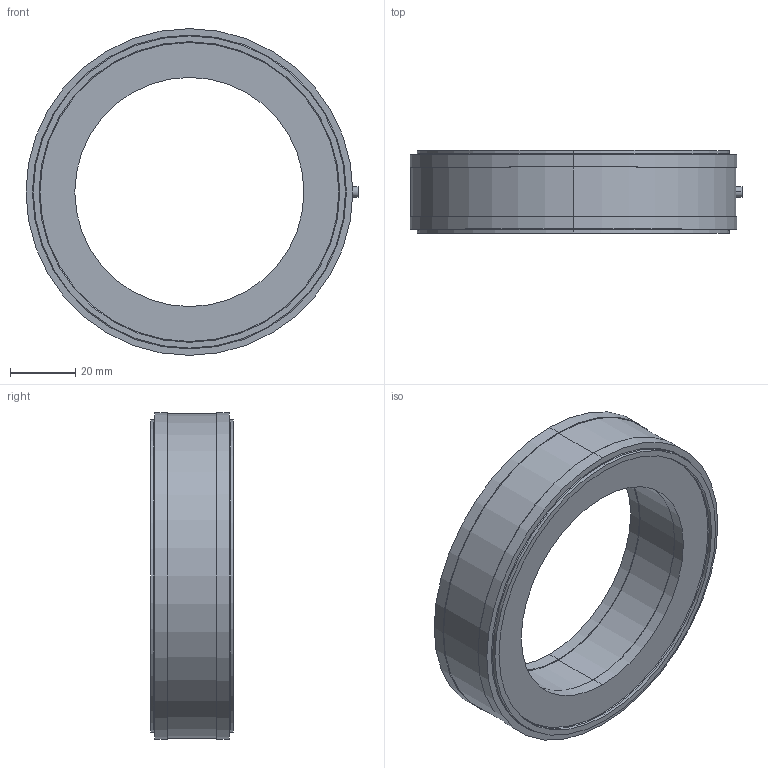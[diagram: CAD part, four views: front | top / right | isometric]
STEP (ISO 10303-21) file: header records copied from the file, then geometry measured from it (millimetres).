
FILE_DESCRIPTION (( 'STEP AP203' ), '1' );
FILE_NAME ('SS1543-10T.STEP', '2022-11-18T21:19:08', ( '' ), ( '' ), 'SwSTEP 2.0', 'SolidWorks 2008', '' );
FILE_SCHEMA (( 'CONFIG_CONTROL_DESIGN' ));
Length unit declared in the file: inch
Products named in the file (1): SS1543-10T
Bounding box: 101.41 x 25.27 x 99.82 mm (x, y, z)
Volume: 89727.6 mm3; surface area: 21738.2 mm2
Topology: 1 solids, 1 shells, 41 faces, 82 edges, 52 vertices
Faces by surface type: cylinder 22, plane 11, torus 8
Entity records: 1219 total; most frequent: CARTESIAN_POINT 226, DIRECTION 222, ORIENTED_EDGE 164, AXIS2_PLACEMENT_3D 100, EDGE_CURVE 82, CIRCLE 58, EDGE_LOOP 52, VERTEX_POINT 52
